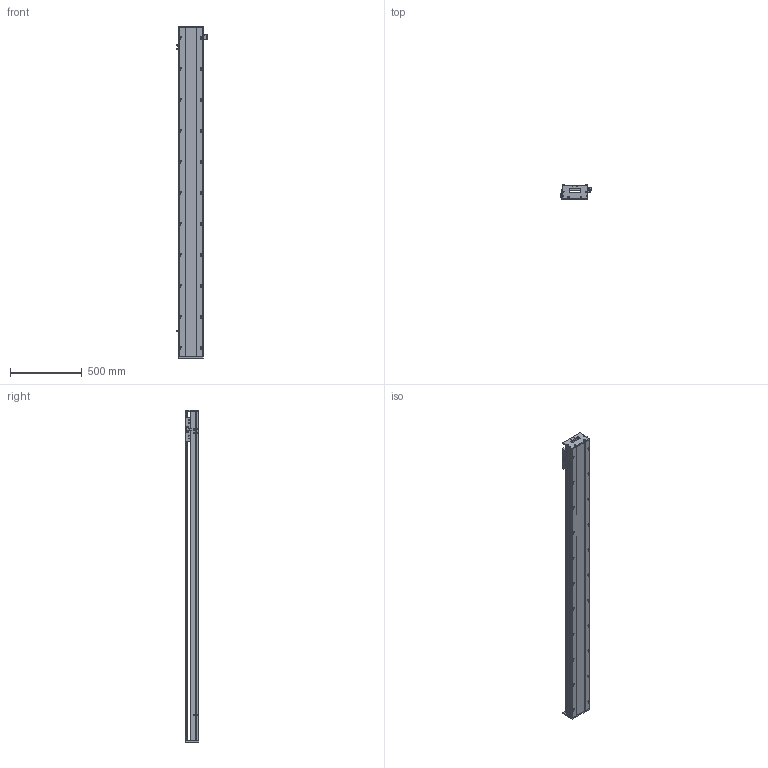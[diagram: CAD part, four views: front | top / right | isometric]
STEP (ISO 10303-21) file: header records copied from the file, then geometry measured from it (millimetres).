
FILE_DESCRIPTION (( 'STEP AP203' ), '1' );
FILE_NAME ('SKR17S-C1-S2046（简）.STEP', '2022-09-29T06:20:14', ( '' ), ( '' ), 'SwSTEP 2.0', 'SolidWorks 2018', '' );
FILE_SCHEMA (( 'CONFIG_CONTROL_DESIGN' ));
Length unit declared in the file: millimetre
Products named in the file (8): SKR17滑台-170L（简）; SKR17耜啣; 棠掑假蚾輸; SKR17S-C1-S2046（简）; SKR17菁釱-C1-S2046潠); EE-SX672; 感应片（SKR12S-14S-17S）; SIKO棠掑
Assembly tree (10 placements, depth 2):
  SKR17S-C1-S2046（简）
    SKR17菁釱-C1-S2046潠)
    SKR17滑台-170L（简）
    SIKO棠掑
    EE-SX672  x3
    SKR17耜啣  x2
    棠掑假蚾輸
    感应片（SKR12S-14S-17S）
Bounding box: 212.7 x 97 x 2316 mm (x, y, z)
Volume: 17723210.5 mm3; surface area: 2147300.8 mm2
Topology: 11 solids, 11 shells, 1329 faces, 3701 edges, 2380 vertices
Faces by surface type: cylinder 656, plane 537, cone 136
Entity records: 41606 total; most frequent: CARTESIAN_POINT 11465, ORIENTED_EDGE 6390, DIRECTION 5804, EDGE_CURVE 3195, VERTEX_POINT 2084, AXIS2_PLACEMENT_3D 2071, VECTOR 1662, LINE 1662
